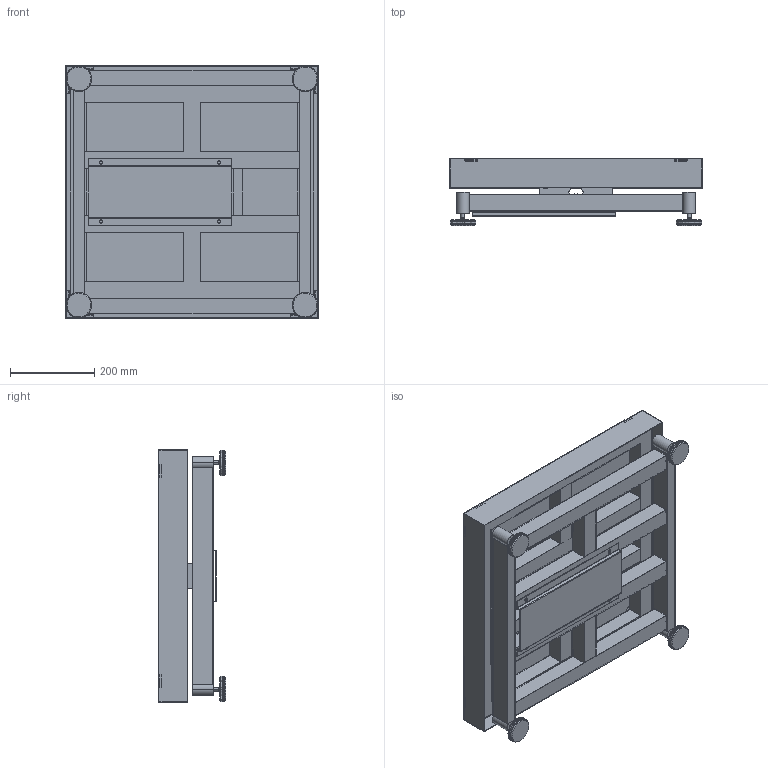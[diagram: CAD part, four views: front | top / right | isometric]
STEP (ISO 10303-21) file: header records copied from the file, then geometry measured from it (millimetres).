
FILE_DESCRIPTION((''),'1');
FILE_NAME('LELA_600x600_60-150-300_kg.step','2023-02-13T15:38:51',(''),(''),'','','');
FILE_SCHEMA(('AUTOMOTIVE_DESIGN { 1 0 10303 214 1 1 1 1 }'));
Products named in the file (11): LELA 600x600_60-150-300_kg; LELA cover 01; LELA part 02; LELA part 03; LELA part 05; LELA part 06; LELA load cell 01; LELA part 07; LELA part 08; LELA plate 01; LELA part 10
Assembly tree (21 placements, depth 3):
  LELA 600x600_60-150-300_kg
    LELA cover 01
    LELA part 02
      LELA part 03  x4
      LELA part 05  x6
      LELA part 06
    LELA load cell 01
    LELA part 07
      LELA part 08
      LELA plate 01
    LELA part 10  x4
Bounding box: 600 x 160 x 600 mm (x, y, z)
Volume: 3607087 mm3; surface area: 3425891.7 mm2
Topology: 19 solids, 29 shells, 3384 faces, 8387 edges, 4948 vertices
Faces by surface type: cylinder 1698, plane 1364, sphere 160, torus 86, cone 52, revolution 24
Entity records: 38524 total; most frequent: DIRECTION 6712, CARTESIAN_POINT 5696, ORIENTED_EDGE 5582, EDGE_CURVE 2793, AXIS2_PLACEMENT_3D 2778, VERTEX_POINT 1722, CIRCLE 1629, EDGE_LOOP 1269
